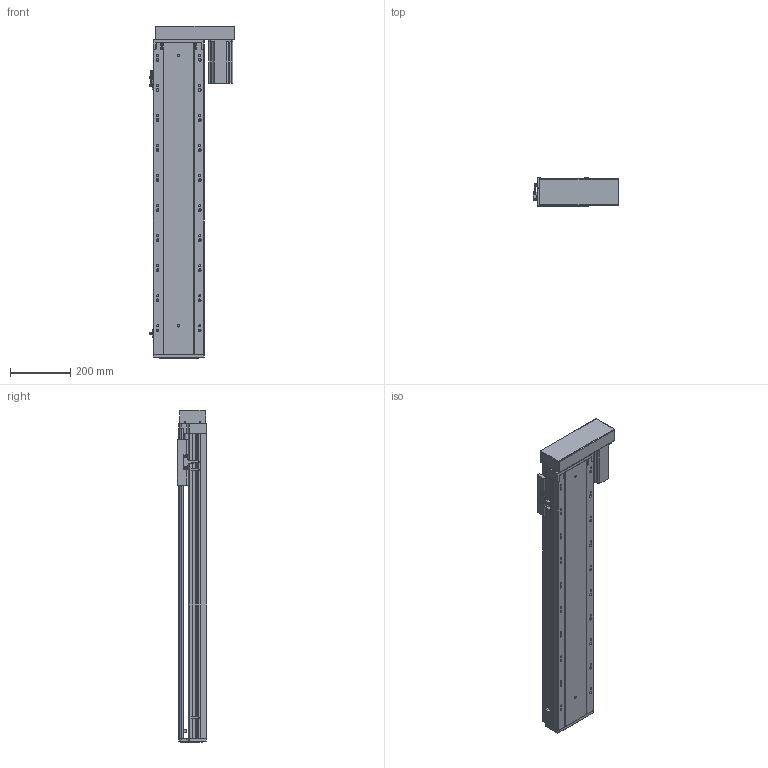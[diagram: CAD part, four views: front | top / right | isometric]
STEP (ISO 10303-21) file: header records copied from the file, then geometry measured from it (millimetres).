
FILE_DESCRIPTION (( 'STEP AP203' ), '1' );
FILE_NAME ('RY170-L2510-300-RK.SLDASM_800.step', '2021-03-12T09:19:42', ( '盈信电脑' ), ( '东莞市道滘镇水果街19号' ), 'SwSTEP 2.0', 'SolidWorks 2012', '' );
FILE_SCHEMA (( 'CONFIG_CONTROL_DESIGN' ));
Products named in the file (14): RY170外置感应片(200共用）; RY170-L2510-300-RK.SLDASM_800; 覜茼ん672; 怢湛750W萇儂ㄗ80遺ㄘ; RY170-酘衵殏750W萇儂傷; RY170-左右折电机安装板750W; RY170酘衵殏萇儂欶750W; RY170转折电机端支撑座(7004); 滅袉蝶18-10; 改造-RY170铝滑块25丝杆螺母; RY170綴裔啣; 滅袉蝶18-20; RY170-300倰第裔啣-RK_800; RY170-300倰第菁釱-RK_800
Assembly tree (15 placements, depth 3):
  RY170-L2510-300-RK.SLDASM_800
    RY170-300倰第菁釱-RK_800
    改造-RY170铝滑块25丝杆螺母
    RY170-300倰第裔啣-RK_800
    RY170綴裔啣
    滅袉蝶18-20
    滅袉蝶18-10
    RY170转折电机端支撑座(7004)
    RY170-酘衵殏750W萇儂傷
      RY170-左右折电机安装板750W
      RY170酘衵殏萇儂欶750W
      怢湛750W萇儂ㄗ80遺ㄘ
    覜茼ん672  x3
    RY170外置感应片(200共用）
Bounding box: 286.2 x 97 x 1105 mm (x, y, z)
Volume: 6360366.1 mm3; surface area: 1960320 mm2
Topology: 14 solids, 14 shells, 2243 faces, 6502 edges, 4188 vertices
Faces by surface type: plane 1092, cylinder 962, cone 170, bspline 19
Entity records: 73931 total; most frequent: CARTESIAN_POINT 18320, ORIENTED_EDGE 11756, DIRECTION 10728, EDGE_CURVE 5878, VERTEX_POINT 3868, AXIS2_PLACEMENT_3D 3594, VECTOR 3540, LINE 3540
